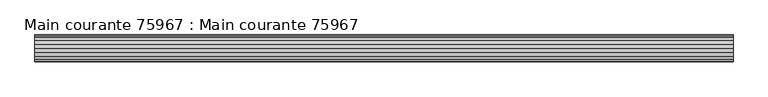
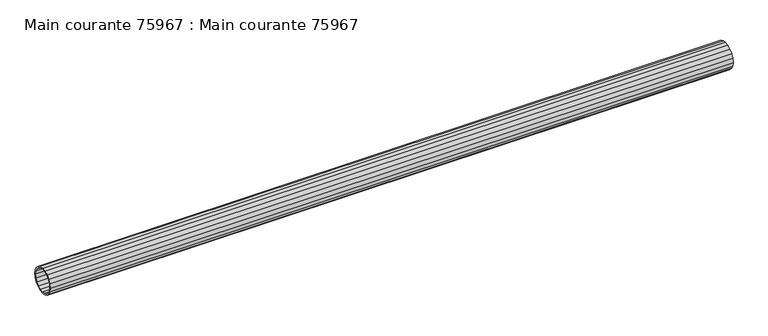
"""IFC4 building model written with IfcOpenShell, lengths in millimetres: beam geometry, Main courante 75967 : Main courante 75967."""

import ifcopenshell
import ifcopenshell.guid

model = None  # the IFC model being written
_history = None  # IfcOwnerHistory: only IFC2X3 demands one
_inside = {}  # id of a spatial element -> (the spatial element, [elements in it])
_under = {}  # id of a project, library or spatial element -> (it, [spatial elements below it])
_declared = {}  # id of a project -> (the project, [libraries it declares])
_typed = {}  # id of a type object -> (the type object, [elements of that type])
_made_of = {}  # id of a material, layer set ... -> (it, [elements and type objects made of it])


def new_model(schema):
    """Start an empty IFC model of exactly this schema.

    Asked for "IFC4X3", IfcOpenShell would pick the latest addendum, in which some entities
    have other attributes; the version numbers below select the first issue.
    IFC2X3 requires an IfcOwnerHistory on every rooted entity: one is made here for all.
    """
    global model, _history
    if schema == "IFC4X3":
        model = ifcopenshell.file(schema_version=(4, 3, 0, 0))
    else:
        model = ifcopenshell.file(schema=schema)
    _inside.clear()
    _under.clear()
    _declared.clear()
    _typed.clear()
    _made_of.clear()
    _history = None
    if model.schema == "IFC2X3":
        org = make("IfcOrganization", Name="unknown")
        user = make(
            "IfcPersonAndOrganization",
            ThePerson=make("IfcPerson", FamilyName="unknown"),
            TheOrganization=org,
        )
        app = make(
            "IfcApplication",
            ApplicationDeveloper=org,
            Version="unknown",
            ApplicationFullName="unknown",
            ApplicationIdentifier="unknown",
        )
        _history = make(
            "IfcOwnerHistory",
            OwningUser=user,
            OwningApplication=app,
            ChangeAction="ADDED",
            CreationDate=0,
        )
    return model


def make(cls, **values):
    """One entity of the class cls with the attributes given. An attribute that is None is left unset."""
    return model.create_entity(
        cls, **{name: value for name, value in values.items() if value is not None}
    )


def rooted(cls, **values):
    """An entity with a GlobalId (a new one), such as an element, a storey or a relation."""
    return make(cls, GlobalId=ifcopenshell.guid.new(), OwnerHistory=_history, **values)


def si_unit(unit_type, name, prefix=None):
    """IfcSIUnit, for example si_unit("LENGTHUNIT", "METRE", prefix="MILLI")."""
    return make("IfcSIUnit", UnitType=unit_type, Prefix=prefix, Name=name)


def assignment(units):
    """IfcUnitAssignment: the units of a project."""
    return None if units is None else make("IfcUnitAssignment", Units=units)


def point(xyz):
    """IfcCartesianPoint."""
    return None if xyz is None else make("IfcCartesianPoint", Coordinates=xyz)


def direction(xyz):
    """IfcDirection."""
    return None if xyz is None else make("IfcDirection", DirectionRatios=xyz)


def frame(location, z_axis=None, x_axis=None):
    """IfcAxis2Placement3D, a coordinate frame: its origin and axes. An axis left out is left unset."""
    return make(
        "IfcAxis2Placement3D",
        Location=point(location),
        Axis=direction(z_axis),
        RefDirection=direction(x_axis),
    )


def origin():
    """The frame at (0, 0, 0) with its axes left unset."""
    return frame((0.0, 0.0, 0.0))


def place(relative_to, where):
    """IfcLocalPlacement: puts the frame where relative to a parent placement (None: the world)."""
    return make(
        "IfcLocalPlacement", PlacementRelTo=relative_to, RelativePlacement=where
    )


def context(
    kind, dimensions, precision=None, world=None, true_north=None, identifier=None
):
    """IfcGeometricRepresentationContext, for example the 3D "Model" context."""
    return make(
        "IfcGeometricRepresentationContext",
        ContextIdentifier=identifier,
        ContextType=kind,
        CoordinateSpaceDimension=dimensions,
        Precision=precision,
        WorldCoordinateSystem=world,
        TrueNorth=true_north,
    )


def project(units=None, contexts=None):
    """IfcProject with its units and contexts."""
    return rooted(
        "IfcProject",
        Name="project",
        RepresentationContexts=contexts,
        UnitsInContext=assignment(units),
    )


def spatial(cls, under=None, at=None, **own):
    """A site, building, storey or space (cls), placed at a placement, below another one or the project."""
    s = rooted(cls, ObjectPlacement=at, **own)
    if under is not None:
        _under.setdefault(under.id(), (under, []))[1].append(s)
    return s


def polyline(points):
    """IfcPolyline through the points."""
    return make("IfcPolyline", Points=[point(p) for p in points])


def outline(outer, holes=None, kind="AREA"):
    """IfcArbitraryClosedProfileDef: a profile drawn as a closed curve; with holes, ...WithVoids."""
    if holes is None:
        return make("IfcArbitraryClosedProfileDef", ProfileType=kind, OuterCurve=outer)
    return make(
        "IfcArbitraryProfileDefWithVoids",
        ProfileType=kind,
        OuterCurve=outer,
        InnerCurves=holes,
    )


def extrude(swept, where, along, depth):
    """IfcExtrudedAreaSolid: the profile swept, set in the frame where, extruded along a direction by depth."""
    return make(
        "IfcExtrudedAreaSolid",
        SweptArea=swept,
        Position=where,
        ExtrudedDirection=direction(along),
        Depth=depth,
    )


def shape(context_of_items, identifier, shape_type, items):
    """IfcShapeRepresentation: the items that make up one representation, for example the "Body"."""
    return make(
        "IfcShapeRepresentation",
        ContextOfItems=context_of_items,
        RepresentationIdentifier=identifier,
        RepresentationType=shape_type,
        Items=items,
    )


def source(mapping_origin, context_of_items, identifier, shape_type, items):
    """IfcRepresentationMap: a shape defined once, which mapped items show again and again."""
    return make(
        "IfcRepresentationMap",
        MappingOrigin=mapping_origin,
        MappedRepresentation=shape(context_of_items, identifier, shape_type, items),
    )


def transform(
    local_origin,
    x_axis=None,
    y_axis=None,
    z_axis=None,
    scale=None,
    scale2=None,
    scale3=None,
    uniform=True,
):
    """IfcCartesianTransformationOperator3D, or its non-uniform kind. x_axis, y_axis, z_axis: its Axis1, 2, 3."""
    if uniform:
        return make(
            "IfcCartesianTransformationOperator3D",
            Axis1=direction(x_axis),
            Axis2=direction(y_axis),
            LocalOrigin=point(local_origin),
            Scale=scale,
            Axis3=direction(z_axis),
        )
    return make(
        "IfcCartesianTransformationOperator3DnonUniform",
        Axis1=direction(x_axis),
        Axis2=direction(y_axis),
        LocalOrigin=point(local_origin),
        Scale=scale,
        Axis3=direction(z_axis),
        Scale2=scale2,
        Scale3=scale3,
    )


def mapped(mapping_source, mapping_target):
    """IfcMappedItem: shows the shape of a source again, moved by a transform."""
    return make(
        "IfcMappedItem", MappingSource=mapping_source, MappingTarget=mapping_target
    )


def made_of(thing, what):
    """Note that an element or type object is made of a material, layer set ...; save() writes the relation."""
    if what is not None:
        _made_of.setdefault(what.id(), (what, []))[1].append(thing)
    return thing


def element(
    cls,
    number,
    at=None,
    inside=None,
    cuts=None,
    type_object=None,
    material=None,
    context=None,
    identifier="Body",
    shape_type=None,
    held_by="IfcProductDefinitionShape",
    body=None,
    shapes=None,
    **own,
):
    """One element of the class cls, such as IfcWall. Its Tag is "e" and its number.

    at: its placement. inside: the storey or other place that contains it. cuts: it is an
    opening in that element (IfcRelVoidsElement). A single representation is given by context,
    identifier, shape_type and body (its items); several are given by shapes. held_by: the class
    of the entity that holds the representations. save() writes the other relations.
    """
    e = rooted(cls, Tag="e%d" % number, ObjectPlacement=at, **own)
    if body is not None:
        shapes = [shape(context, identifier, shape_type, body)]
    if shapes is not None:
        e.Representation = make(held_by, Representations=shapes)
    if inside is not None:
        _inside.setdefault(inside.id(), (inside, []))[1].append(e)
    if cuts is not None:
        rooted(
            "IfcRelVoidsElement", RelatingBuildingElement=cuts, RelatedOpeningElement=e
        )
    if type_object is not None:
        _typed.setdefault(type_object.id(), (type_object, []))[1].append(e)
    return made_of(e, material)


def aggregate(whole, parts):
    """IfcRelAggregates: a whole, such as a stair, and the parts it consists of."""
    return rooted("IfcRelAggregates", RelatingObject=whole, RelatedObjects=parts)


def save(model, path):
    """Write the relations noted so far, then the file.

    IfcRelAggregates (storeys below a building ...), IfcRelContainedInSpatialStructure (elements
    in a storey), IfcRelDefinesByType, IfcRelAssociatesMaterial and IfcRelDeclares: one each for
    every whole, place, type object, material and project.
    """
    for whole, parts in _under.values():
        aggregate(whole, parts)
    for where, things in _inside.values():
        rooted(
            "IfcRelContainedInSpatialStructure",
            RelatedElements=things,
            RelatingStructure=where,
        )
    for kind, things in _typed.values():
        rooted("IfcRelDefinesByType", RelatedObjects=things, RelatingType=kind)
    for what, things in _made_of.values():
        rooted("IfcRelAssociatesMaterial", RelatedObjects=things, RelatingMaterial=what)
    for by, libraries in _declared.values():
        rooted("IfcRelDeclares", RelatingContext=by, RelatedDefinitions=libraries)
    model.write(path)


def main_courante_75967_main_courante_75967_3d3f35de(model_context):
    return source(origin(), model_context, "Body", "SweptSolid", [
        extrude(outline(polyline([(-24939.3127604, 8787.9680149), (-24931.85, 8789.15), (-24924.3872396, 8787.9680149), (-24917.6549862, 8784.5377604), (-24912.3122396, 8779.1950138), (-24908.8819851, 8772.4627604), (-24907.7, 8765.0), (-24908.8819851, 8757.5372396), (-24912.3122396, 8750.8049862), (-24917.6549862, 8745.4622396), (-24924.3872396, 8742.0319851), (-24931.85, 8740.85), (-24939.3127604, 8742.0319851), (-24946.0450138, 8745.4622396), (-24951.3877604, 8750.8049862), (-24954.8180149, 8757.5372396), (-24956.0, 8765.0), (-24954.8180149, 8772.4627604), (-24951.3877604, 8779.1950138), (-24946.0450138, 8784.5377604), (-24939.3127604, 8787.9680149)]), holes=[polyline([(-24911.2596264, 8771.6902179), (-24914.3347821, 8777.7255507), (-24919.1244493, 8782.5152179), (-24925.1597821, 8785.5903736), (-24931.85, 8786.65), (-24938.5402179, 8785.5903736), (-24944.5755507, 8782.5152179), (-24949.3652179, 8777.7255507), (-24952.4403736, 8771.6902179), (-24953.5, 8765.0), (-24952.4403736, 8758.3097821), (-24949.3652179, 8752.2744493), (-24944.5755507, 8747.4847821), (-24938.5402179, 8744.4096264), (-24931.85, 8743.35), (-24925.1597821, 8744.4096264), (-24919.1244493, 8747.4847821), (-24914.3347821, 8752.2744493), (-24911.2596264, 8758.3097821), (-24910.2, 8765.0), (-24911.2596264, 8771.6902179)])]), frame((7646.9999999, 0.0, 0.0), z_axis=(1.0, 0.0, 0.0), x_axis=(0.0, 1.0, 0.0)), (0.0, 0.0, 1.0), 1249.5),
    ])


if __name__ == "__main__":
    model = new_model("IFC4")
    model_context = context("Model", 3, world=origin())
    ifc_project = project(units=[si_unit("LENGTHUNIT", "METRE", prefix="MILLI")], contexts=[model_context])
    site = spatial("IfcSite", under=ifc_project)
    building = spatial("IfcBuilding", under=site)
    placement = place(None, origin())
    main_courante_75967_main_courante_75967_shape = main_courante_75967_main_courante_75967_3d3f35de(model_context)
    element("IfcBeam", 1, ObjectType="Main courante 75967 : Main courante 75967", at=placement, inside=building, context=model_context, shape_type="MappedRepresentation", body=[
        mapped(main_courante_75967_main_courante_75967_shape, transform((0.0, 0.0, 0.0), x_axis=(1.0, 0.0, 0.0), y_axis=(0.0, 1.0, 0.0), z_axis=(0.0, 0.0, 1.0))),
    ])
    save(model, "model.ifc")
